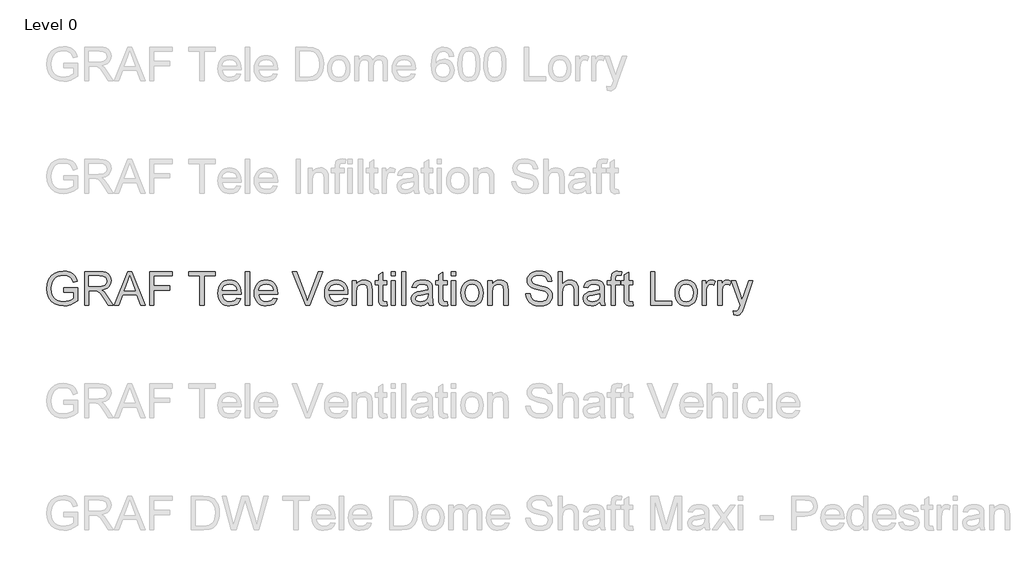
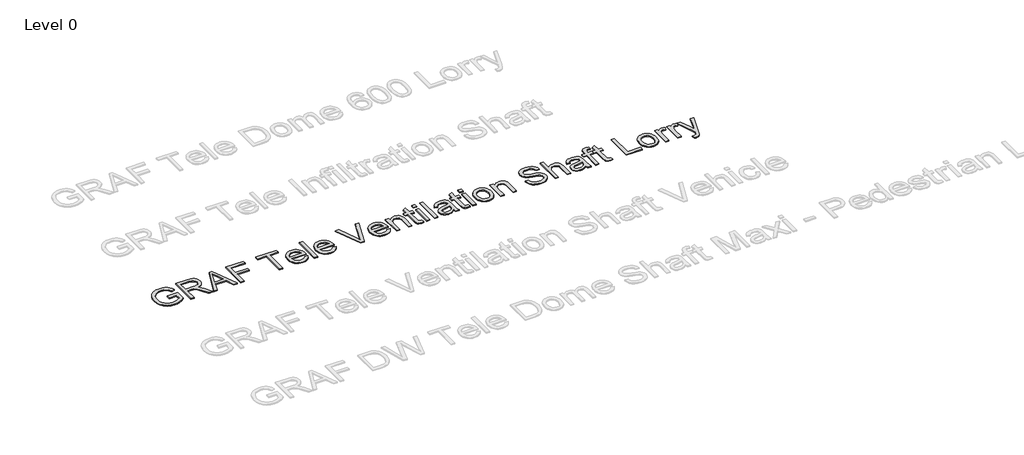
# One storey, part 16 of 25: 1 proxy.
"""IFC4 building model written with IfcOpenShell, lengths in millimetres."""

import ifcopenshell
import ifcopenshell.guid

model = None  # the IFC model being written
_history = None  # IfcOwnerHistory: only IFC2X3 demands one
_inside = {}  # id of a spatial element -> (the spatial element, [elements in it])
_under = {}  # id of a project, library or spatial element -> (it, [spatial elements below it])
_declared = {}  # id of a project -> (the project, [libraries it declares])
_typed = {}  # id of a type object -> (the type object, [elements of that type])
_made_of = {}  # id of a material, layer set ... -> (it, [elements and type objects made of it])


def new_model(schema):
    """Start an empty IFC model of exactly this schema.

    Asked for "IFC4X3", IfcOpenShell would pick the latest addendum, in which some entities
    have other attributes; the version numbers below select the first issue.
    IFC2X3 requires an IfcOwnerHistory on every rooted entity: one is made here for all.
    """
    global model, _history
    if schema == "IFC4X3":
        model = ifcopenshell.file(schema_version=(4, 3, 0, 0))
    else:
        model = ifcopenshell.file(schema=schema)
    _inside.clear()
    _under.clear()
    _declared.clear()
    _typed.clear()
    _made_of.clear()
    _history = None
    if model.schema == "IFC2X3":
        org = make("IfcOrganization", Name="unknown")
        user = make(
            "IfcPersonAndOrganization",
            ThePerson=make("IfcPerson", FamilyName="unknown"),
            TheOrganization=org,
        )
        app = make(
            "IfcApplication",
            ApplicationDeveloper=org,
            Version="unknown",
            ApplicationFullName="unknown",
            ApplicationIdentifier="unknown",
        )
        _history = make(
            "IfcOwnerHistory",
            OwningUser=user,
            OwningApplication=app,
            ChangeAction="ADDED",
            CreationDate=0,
        )
    return model


def make(cls, **values):
    """One entity of the class cls with the attributes given. An attribute that is None is left unset."""
    return model.create_entity(
        cls, **{name: value for name, value in values.items() if value is not None}
    )


def rooted(cls, **values):
    """An entity with a GlobalId (a new one), such as an element, a storey or a relation."""
    return make(cls, GlobalId=ifcopenshell.guid.new(), OwnerHistory=_history, **values)


def si_unit(unit_type, name, prefix=None):
    """IfcSIUnit, for example si_unit("LENGTHUNIT", "METRE", prefix="MILLI")."""
    return make("IfcSIUnit", UnitType=unit_type, Prefix=prefix, Name=name)


def assignment(units):
    """IfcUnitAssignment: the units of a project."""
    return None if units is None else make("IfcUnitAssignment", Units=units)


def point(xyz):
    """IfcCartesianPoint."""
    return None if xyz is None else make("IfcCartesianPoint", Coordinates=xyz)


def direction(xyz):
    """IfcDirection."""
    return None if xyz is None else make("IfcDirection", DirectionRatios=xyz)


def frame(location, z_axis=None, x_axis=None):
    """IfcAxis2Placement3D, a coordinate frame: its origin and axes. An axis left out is left unset."""
    return make(
        "IfcAxis2Placement3D",
        Location=point(location),
        Axis=direction(z_axis),
        RefDirection=direction(x_axis),
    )


def origin():
    """The frame at (0, 0, 0) with its axes left unset."""
    return frame((0.0, 0.0, 0.0))


def origin_with_axes():
    """The frame at (0, 0, 0) with the z axis (0, 0, 1) and the x axis (1, 0, 0) written out."""
    return frame((0.0, 0.0, 0.0), z_axis=(0.0, 0.0, 1.0), x_axis=(1.0, 0.0, 0.0))


def place(relative_to, where):
    """IfcLocalPlacement: puts the frame where relative to a parent placement (None: the world)."""
    return make(
        "IfcLocalPlacement", PlacementRelTo=relative_to, RelativePlacement=where
    )


def context(
    kind, dimensions, precision=None, world=None, true_north=None, identifier=None
):
    """IfcGeometricRepresentationContext, for example the 3D "Model" context."""
    return make(
        "IfcGeometricRepresentationContext",
        ContextIdentifier=identifier,
        ContextType=kind,
        CoordinateSpaceDimension=dimensions,
        Precision=precision,
        WorldCoordinateSystem=world,
        TrueNorth=true_north,
    )


def project(units=None, contexts=None):
    """IfcProject with its units and contexts."""
    return rooted(
        "IfcProject",
        Name="project",
        RepresentationContexts=contexts,
        UnitsInContext=assignment(units),
    )


def spatial(cls, under=None, at=None, **own):
    """A site, building, storey or space (cls), placed at a placement, below another one or the project."""
    s = rooted(cls, ObjectPlacement=at, **own)
    if under is not None:
        _under.setdefault(under.id(), (under, []))[1].append(s)
    return s


def polyline(points):
    """IfcPolyline through the points."""
    return make("IfcPolyline", Points=[point(p) for p in points])


def outline(outer, holes=None, kind="AREA"):
    """IfcArbitraryClosedProfileDef: a profile drawn as a closed curve; with holes, ...WithVoids."""
    if holes is None:
        return make("IfcArbitraryClosedProfileDef", ProfileType=kind, OuterCurve=outer)
    return make(
        "IfcArbitraryProfileDefWithVoids",
        ProfileType=kind,
        OuterCurve=outer,
        InnerCurves=holes,
    )


def extrude(swept, where, along, depth):
    """IfcExtrudedAreaSolid: the profile swept, set in the frame where, extruded along a direction by depth."""
    return make(
        "IfcExtrudedAreaSolid",
        SweptArea=swept,
        Position=where,
        ExtrudedDirection=direction(along),
        Depth=depth,
    )


def shape(context_of_items, identifier, shape_type, items):
    """IfcShapeRepresentation: the items that make up one representation, for example the "Body"."""
    return make(
        "IfcShapeRepresentation",
        ContextOfItems=context_of_items,
        RepresentationIdentifier=identifier,
        RepresentationType=shape_type,
        Items=items,
    )


def made_of(thing, what):
    """Note that an element or type object is made of a material, layer set ...; save() writes the relation."""
    if what is not None:
        _made_of.setdefault(what.id(), (what, []))[1].append(thing)
    return thing


def element(
    cls,
    number,
    at=None,
    inside=None,
    cuts=None,
    type_object=None,
    material=None,
    context=None,
    identifier="Body",
    shape_type=None,
    held_by="IfcProductDefinitionShape",
    body=None,
    shapes=None,
    **own,
):
    """One element of the class cls, such as IfcWall. Its Tag is "e" and its number.

    at: its placement. inside: the storey or other place that contains it. cuts: it is an
    opening in that element (IfcRelVoidsElement). A single representation is given by context,
    identifier, shape_type and body (its items); several are given by shapes. held_by: the class
    of the entity that holds the representations. save() writes the other relations.
    """
    e = rooted(cls, Tag="e%d" % number, ObjectPlacement=at, **own)
    if body is not None:
        shapes = [shape(context, identifier, shape_type, body)]
    if shapes is not None:
        e.Representation = make(held_by, Representations=shapes)
    if inside is not None:
        _inside.setdefault(inside.id(), (inside, []))[1].append(e)
    if cuts is not None:
        rooted(
            "IfcRelVoidsElement", RelatingBuildingElement=cuts, RelatedOpeningElement=e
        )
    if type_object is not None:
        _typed.setdefault(type_object.id(), (type_object, []))[1].append(e)
    return made_of(e, material)


def aggregate(whole, parts):
    """IfcRelAggregates: a whole, such as a stair, and the parts it consists of."""
    return rooted("IfcRelAggregates", RelatingObject=whole, RelatedObjects=parts)


def save(model, path):
    """Write the relations noted so far, then the file.

    IfcRelAggregates (storeys below a building ...), IfcRelContainedInSpatialStructure (elements
    in a storey), IfcRelDefinesByType, IfcRelAssociatesMaterial and IfcRelDeclares: one each for
    every whole, place, type object, material and project.
    """
    for whole, parts in _under.values():
        aggregate(whole, parts)
    for where, things in _inside.values():
        rooted(
            "IfcRelContainedInSpatialStructure",
            RelatedElements=things,
            RelatingStructure=where,
        )
    for kind, things in _typed.values():
        rooted("IfcRelDefinesByType", RelatedObjects=things, RelatingType=kind)
    for what, things in _made_of.values():
        rooted("IfcRelAssociatesMaterial", RelatedObjects=things, RelatingMaterial=what)
    for by, libraries in _declared.values():
        rooted("IfcRelDeclares", RelatingContext=by, RelatedDefinitions=libraries)
    model.write(path)


model = new_model("IFC4")

# Units and contexts
model_context = context("Model", 3, world=origin())
ifc_project = project(units=[si_unit("LENGTHUNIT", "METRE", prefix="MILLI")], contexts=[model_context])

# Site, building, storey
site = spatial("IfcSite", under=ifc_project)
building = spatial("IfcBuilding", under=site)
storey = spatial("IfcBuildingStorey", under=building, Name="Level 0", Elevation=0.0)

# Proxy
placement = place(None, origin())
element("IfcBuildingElementProxy", 1, Name="300mm Arial", ObjectType="300mm Arial", at=placement, inside=storey, context=model_context, shape_type="SweptSolid", body=[
    extrude(outline(polyline([(-15240.9940387, 2916.7454403), (-15240.9940387, 2954.4165566), (-15118.5629107, 2954.4165566), (-15118.5629107, 2841.7710897), (-15148.3153671, 2821.0777274), (-15179.0059225, 2806.2336889), (-15210.5610007, 2797.2941564), (-15242.9070251, 2794.3143123), (-15285.1674693, 2799.050793), (-15323.3628175, 2813.260235), (-15355.0926395, 2836.4459978), (-15377.9565055, 2868.1114405), (-15391.7796715, 2906.0952565), (-15396.3873935, 2948.2361391), (-15391.7980656, 2990.6805243), (-15378.0300819, 3030.1634594), (-15355.6536596, 3063.282036), (-15325.2390156, 3086.6333457), (-15288.1932987, 3100.4841028), (-15245.9236575, 3105.1010218), (-15214.8928112, 3102.4246803), (-15186.9889618, 3094.3956557), (-15163.4904994, 3081.5933623), (-15145.6758138, 3064.5972141), (-15132.4964413, 3042.5886738), (-15122.9039183, 3014.7492038), (-15157.6319786, 3004.9635427), (-15165.3850917, 3024.8199734), (-15174.8120678, 3039.8019677), (-15187.2832674, 3051.0959449), (-15204.169051, 3059.8883246), (-15224.3013932, 3065.5445103), (-15246.5122687, 3067.4299055), (-15272.5123287, 3065.3973575), (-15294.7415982, 3059.2997134), (-15313.1173039, 3049.9003284), (-15327.5566722, 3037.9625577), (-15346.9440533, 3008.9366683), (-15355.7732212, 2980.49939), (-15358.7162772, 2949.7812434), (-15355.175413, 2913.7563991), (-15344.5528204, 2884.1143073), (-15327.1703961, 2861.0665003), (-15303.3500369, 2844.8245102), (-15275.4737787, 2835.195199), (-15245.9236575, 2831.9854286), (-15219.831627, 2834.4042527), (-15194.3833899, 2841.6607251), (-15172.2828791, 2851.6579183), (-15156.234027, 2862.298905), (-15156.234027, 2916.7454403), (-15240.9940387, 2916.7454403)])), origin_with_axes(), (0.0, 0.0, 1.0), 10.0),
    extrude(outline(polyline([(-15057.3473467, 2799.0232018), (-15057.3473467, 3100.3921323), (-14927.4850024, 3100.3921323), (-14892.5821982, 3098.3595842), (-14867.1891434, 3092.2619402), (-14848.6294968, 3081.0047511), (-14834.2269167, 3063.4935682), (-14824.9838815, 3041.7793334), (-14821.9028698, 3017.912989), (-14827.0072325, 2988.2249119), (-14842.3203206, 2963.6136065), (-14853.9200997, 2953.5842236), (-14868.3019865, 2945.5689946), (-14905.4120827, 2935.5809984), (-14884.0013506, 2919.467767), (-14853.467145, 2880.6930048), (-14803.2144645, 2799.0232018), (-14846.9924219, 2799.0232018), (-14886.2086426, 2861.4895646), (-14914.5355562, 2902.8395009), (-14934.4379722, 2922.3740348), (-14952.3538253, 2929.5477337), (-14974.2060158, 2930.8721089), (-15019.6762304, 2930.8721089), (-15019.6762304, 2799.0232018), (-15057.3473467, 2799.0232018)]), holes=[polyline([(-15019.6762304, 2968.5432252), (-14935.3576771, 2968.5432252), (-14911.1418448, 2969.8767974), (-14892.3522719, 2973.8775141), (-14878.2072092, 2980.8120897), (-14867.9249074, 2990.9472387), (-14861.6617165, 3003.2069062), (-14859.5739861, 3016.5150374), (-14863.5563087, 3034.890743), (-14875.5032765, 3049.6979933), (-14896.058683, 3059.4652603), (-14925.8663217, 3062.721016), (-15019.6762304, 3062.721016), (-15019.6762304, 2968.5432252)])]), origin_with_axes(), (0.0, 0.0, 1.0), 10.0),
    extrude(outline(polyline([(-14791.0743586, 2799.0232018), (-14670.7769462, 3100.3921323), (-14638.6976362, 3100.3921323), (-14518.4002238, 2799.0232018), (-14558.2050557, 2799.0232018), (-14592.7123868, 2893.2009926), (-14716.835772, 2893.2009926), (-14751.2695268, 2799.0232018), (-14791.0743586, 2799.0232018)]), holes=[polyline([(-14703.003409, 2930.8721089), (-14606.4711735, 2930.8721089), (-14633.6208647, 3004.9635427), (-14654.7372912, 3062.721016), (-14673.499273, 3011.4382658), (-14703.003409, 2930.8721089)])]), origin_with_axes(), (0.0, 0.0, 1.0), 10.0),
    extrude(outline(polyline([(-14478.1539335, 2799.0232018), (-14478.1539335, 3100.3921323), (-14275.6716834, 3100.3921323), (-14275.6716834, 3062.721016), (-14440.4828172, 3062.721016), (-14440.4828172, 2973.2521147), (-14299.2161311, 2973.2521147), (-14299.2161311, 2935.5809984), (-14440.4828172, 2935.5809984), (-14440.4828172, 2799.0232018), (-14478.1539335, 2799.0232018)])), origin_with_axes(), (0.0, 0.0, 1.0), 10.0),
    extrude(outline(polyline([(-14030.8094274, 2799.0232018), (-14030.8094274, 3062.721016), (-14129.6961077, 3062.721016), (-14129.6961077, 3100.3921323), (-13894.2516308, 3100.3921323), (-13894.2516308, 3062.721016), (-13993.1383111, 3062.721016), (-13993.1383111, 2799.0232018), (-14030.8094274, 2799.0232018)])), origin_with_axes(), (0.0, 0.0, 1.0), 10.0),
    extrude(outline(polyline([(-13701.6286181, 2864.9476554), (-13664.6932658, 2860.2387658), (-13678.001397, 2832.4084929), (-13699.2373851, 2811.6047661), (-13727.9229837, 2798.6369257), (-13763.5799461, 2794.3143123), (-13786.9542484, 2796.1790141), (-13807.7809678, 2801.7731197), (-13826.0601045, 2811.0966291), (-13841.7916583, 2824.1495421), (-13854.4422004, 2840.5685754), (-13863.4783019, 2859.9904455), (-13868.8999628, 2882.4151523), (-13870.7071831, 2907.842696), (-13868.8815687, 2934.1324631), (-13863.4047255, 2957.3044302), (-13854.2766535, 2977.3585975), (-13841.4973527, 2994.2949649), (-13825.8071856, 3007.7502488), (-13807.9465147, 3017.361166), (-13787.9153401, 3023.1277162), (-13765.7136617, 3025.0498997), (-13744.2270539, 3023.1323148), (-13724.7959868, 3017.3795601), (-13707.4204603, 3007.7916356), (-13692.1004744, 2994.3685413), (-13679.5947859, 2977.4689621), (-13670.6621512, 2957.451583), (-13665.3025704, 2934.3164041), (-13663.5160434, 2908.0634252), (-13663.7367726, 2897.9098821), (-13833.0360668, 2897.9098821), (-13826.5153584, 2869.7117272), (-13811.3678173, 2848.9815768), (-13789.5064297, 2836.2344656), (-13762.8441821, 2831.9854286), (-13742.7946134, 2833.9535973), (-13725.9088298, 2839.8581033), (-13712.1868314, 2850.0668287), (-13701.6286181, 2864.9476554)]), holes=[polyline([(-13833.0360668, 2935.5809984), (-13701.1871597, 2935.5809984), (-13706.2823254, 2955.4834144), (-13716.2703215, 2969.7204476), (-13738.2328766, 2982.9641994), (-13765.8608145, 2987.3787834), (-13791.2538692, 2983.8563132), (-13812.2507341, 2973.2889029), (-13826.8464522, 2956.8169866), (-13833.0360668, 2935.5809984)])]), origin_with_axes(), (0.0, 0.0, 1.0), 10.0),
    extrude(outline(polyline([(-13625.8449271, 2799.0232018), (-13625.8449271, 3100.3921323), (-13588.1738108, 3100.3921323), (-13588.1738108, 2799.0232018), (-13625.8449271, 2799.0232018)])), origin_with_axes(), (0.0, 0.0, 1.0), 10.0),
    extrude(outline(polyline([(-13376.71524, 2864.9476554), (-13339.7798877, 2860.2387658), (-13353.0880188, 2832.4084929), (-13374.324007, 2811.6047661), (-13403.0096056, 2798.6369257), (-13438.666568, 2794.3143123), (-13462.0408702, 2796.1790141), (-13482.8675897, 2801.7731197), (-13501.1467263, 2811.0966291), (-13516.8782801, 2824.1495421), (-13529.5288222, 2840.5685754), (-13538.5649238, 2859.9904455), (-13543.9865847, 2882.4151523), (-13545.793805, 2907.842696), (-13543.9681906, 2934.1324631), (-13538.4913474, 2957.3044302), (-13529.3632754, 2977.3585975), (-13516.5839745, 2994.2949649), (-13500.8938074, 3007.7502488), (-13483.0331366, 3017.361166), (-13463.0019619, 3023.1277162), (-13440.8002835, 3025.0498997), (-13419.3136758, 3023.1323148), (-13399.8826086, 3017.3795601), (-13382.5070821, 3007.7916356), (-13367.1870963, 2994.3685413), (-13354.6814077, 2977.4689621), (-13345.748773, 2957.451583), (-13340.3891922, 2934.3164041), (-13338.6026653, 2908.0634252), (-13338.8233945, 2897.9098821), (-13508.1226887, 2897.9098821), (-13501.6019803, 2869.7117272), (-13486.4544391, 2848.9815768), (-13464.5930516, 2836.2344656), (-13437.930804, 2831.9854286), (-13417.8812352, 2833.9535973), (-13400.9954517, 2839.8581033), (-13387.2734532, 2850.0668287), (-13376.71524, 2864.9476554)]), holes=[polyline([(-13508.1226887, 2935.5809984), (-13376.2737816, 2935.5809984), (-13381.3689472, 2955.4834144), (-13391.3569434, 2969.7204476), (-13413.3194985, 2982.9641994), (-13440.9474363, 2987.3787834), (-13466.3404911, 2983.8563132), (-13487.3373559, 2973.2889029), (-13501.9330741, 2956.8169866), (-13508.1226887, 2935.5809984)])]), origin_with_axes(), (0.0, 0.0, 1.0), 10.0),
    extrude(outline(polyline([(-13089.4729781, 2799.0232018), (-13209.4025086, 3100.3921323), (-13169.0826419, 3100.3921323), (-13088.8107906, 2883.2681787), (-13072.5504064, 2834.3398734), (-13056.5107514, 2883.2681787), (-12976.0181708, 3100.3921323), (-12935.6983042, 3100.3921323), (-13050.5510631, 2799.0232018), (-13089.4729781, 2799.0232018)])), origin_with_axes(), (0.0, 0.0, 1.0), 10.0),
    extrude(outline(polyline([(-12750.4329314, 2864.9476554), (-12713.4975791, 2860.2387658), (-12726.8057102, 2832.4084929), (-12748.0416984, 2811.6047661), (-12776.727297, 2798.6369257), (-12812.3842594, 2794.3143123), (-12835.7585616, 2796.1790141), (-12856.5852811, 2801.7731197), (-12874.8644177, 2811.0966291), (-12890.5959716, 2824.1495421), (-12903.2465137, 2840.5685754), (-12912.2826152, 2859.9904455), (-12917.7042761, 2882.4151523), (-12919.5114964, 2907.842696), (-12917.685882, 2934.1324631), (-12912.2090388, 2957.3044302), (-12903.0809668, 2977.3585975), (-12890.301666, 2994.2949649), (-12874.6114989, 3007.7502488), (-12856.750828, 3017.361166), (-12836.7196534, 3023.1277162), (-12814.5179749, 3025.0498997), (-12793.0313672, 3023.1323148), (-12773.6003, 3017.3795601), (-12756.2247736, 3007.7916356), (-12740.9047877, 2994.3685413), (-12728.3990991, 2977.4689621), (-12719.4664644, 2957.451583), (-12714.1068836, 2934.3164041), (-12712.3203567, 2908.0634252), (-12712.5410859, 2897.9098821), (-12881.8403801, 2897.9098821), (-12875.3196717, 2869.7117272), (-12860.1721306, 2848.9815768), (-12838.310743, 2836.2344656), (-12811.6484954, 2831.9854286), (-12791.5989266, 2833.9535973), (-12774.7131431, 2839.8581033), (-12760.9911447, 2850.0668287), (-12750.4329314, 2864.9476554)]), holes=[polyline([(-12881.8403801, 2935.5809984), (-12749.991473, 2935.5809984), (-12755.0866386, 2955.4834144), (-12765.0746348, 2969.7204476), (-12787.0371899, 2982.9641994), (-12814.6651277, 2987.3787834), (-12840.0581825, 2983.8563132), (-12861.0550473, 2973.2889029), (-12875.6507655, 2956.8169866), (-12881.8403801, 2935.5809984)])]), origin_with_axes(), (0.0, 0.0, 1.0), 10.0),
    extrude(outline(polyline([(-12674.6492404, 2799.0232018), (-12674.6492404, 3020.3410101), (-12636.9781241, 3020.3410101), (-12636.9781241, 2989.4389225), (-12623.8907221, 3005.018725), (-12608.1729639, 3016.1471554), (-12589.8248493, 3022.8242136), (-12568.8463786, 3025.0498997), (-12550.2775349, 3023.2564749), (-12533.2721896, 3017.8762008), (-12519.0903387, 3009.5804618), (-12508.991978, 2999.0406426), (-12497.6980007, 2971.3391284), (-12495.7114379, 2934.9188108), (-12495.7114379, 2799.0232018), (-12533.3825542, 2799.0232018), (-12533.3825542, 2929.8420393), (-12537.7235618, 2963.1721481), (-12543.7292353, 2973.0957649), (-12553.064241, 2980.7936956), (-12565.0296029, 2985.7325114), (-12578.9263452, 2987.3787834), (-12600.9900679, 2983.6815693), (-12619.7980349, 2972.5899271), (-12627.3143239, 2963.5354315), (-12632.6831018, 2951.1608009), (-12636.9781241, 2916.4511347), (-12636.9781241, 2799.0232018), (-12674.6492404, 2799.0232018)])), origin_with_axes(), (0.0, 0.0, 1.0), 10.0),
    extrude(outline(polyline([(-12363.8625309, 2830.4403242), (-12359.1536413, 2797.9195558), (-12387.3334021, 2794.3143123), (-12405.4148022, 2795.8778108), (-12418.8976773, 2800.5683062), (-12428.425821, 2807.7971874), (-12434.6430267, 2816.9758432), (-12438.0643293, 2832.7395867), (-12439.2047635, 2859.723731), (-12439.2047635, 2982.6698938), (-12467.4581007, 2982.6698938), (-12467.4581007, 3020.3410101), (-12439.2047635, 3020.3410101), (-12439.2047635, 3074.1253578), (-12401.5336472, 3096.2718539), (-12401.5336472, 3020.3410101), (-12363.8625309, 3020.3410101), (-12363.8625309, 2982.6698938), (-12401.5336472, 2982.6698938), (-12401.5336472, 2860.827377), (-12399.5470844, 2841.4032077), (-12393.1091495, 2834.5238144), (-12380.2700678, 2831.9854286), (-12363.8625309, 2830.4403242)])), origin_with_axes(), (0.0, 0.0, 1.0), 10.0),
    extrude(outline(polyline([(-12326.1914146, 2799.0232018), (-12326.1914146, 3020.3410101), (-12288.5202982, 3020.3410101), (-12288.5202982, 2799.0232018), (-12326.1914146, 2799.0232018)])), origin_with_axes(), (0.0, 0.0, 1.0), 10.0),
    extrude(outline(polyline([(-12326.1914146, 3062.721016), (-12326.1914146, 3100.3921323), (-12288.5202982, 3100.3921323), (-12288.5202982, 3062.721016), (-12326.1914146, 3062.721016)])), origin_with_axes(), (0.0, 0.0, 1.0), 10.0),
    extrude(outline(polyline([(-12232.0136238, 2799.0232018), (-12232.0136238, 3100.3921323), (-12194.3425075, 3100.3921323), (-12194.3425075, 2799.0232018), (-12232.0136238, 2799.0232018)])), origin_with_axes(), (0.0, 0.0, 1.0), 10.0),
    extrude(outline(polyline([(-11996.5691469, 2827.2765391), (-12014.5677735, 2811.8438894), (-12033.099829, 2801.7455286), (-12052.5883777, 2796.1721164), (-12073.4564839, 2794.3143123), (-12104.9379856, 2798.7840785), (-12128.1605365, 2812.1933772), (-12142.4803432, 2832.5556457), (-12147.2536121, 2857.8843211), (-12145.4509903, 2873.5009117), (-12140.043125, 2887.6827627), (-12131.7014008, 2899.8228685), (-12121.0972022, 2909.314224), (-12094.7200632, 2921.675059), (-12062.1257184, 2927.3404417), (-12023.6084735, 2933.3001301), (-11996.7898761, 2940.289888), (-11996.5691469, 2948.6775975), (-11999.1627149, 2965.4898046), (-12006.9434191, 2976.4894763), (-12024.3442375, 2984.6564566), (-12048.587661, 2987.3787834), (-12071.0284627, 2985.5669645), (-12086.7002357, 2980.131508), (-12097.3872077, 2970.0791325), (-12104.8736063, 2954.4165566), (-12142.5447226, 2959.1254461), (-12136.0056201, 2979.7268379), (-12126.2475502, 2995.9136456), (-12112.3600049, 3008.2928748), (-12093.4324762, 3017.4715306), (-12070.2835017, 3023.1553074), (-12043.7316187, 3025.0498997), (-12018.2649875, 3023.3760366), (-11998.0774631, 3018.3544473), (-11982.8563455, 3010.8036694), (-11972.2889352, 3001.5422402), (-11965.2807832, 2990.0919131), (-11960.7374405, 2975.9744415), (-11958.8980306, 2943.0122147), (-11958.8980306, 2896.1440485), (-11956.9850442, 2830.6978416), (-11949.4802515, 2799.0232018), (-11987.1513678, 2799.0232018), (-11996.5691469, 2827.2765391)]), holes=[polyline([(-11996.5691469, 2902.6187717), (-12057.3432525, 2891.067277), (-12089.7536563, 2884.9604359), (-12104.4321479, 2875.027622), (-12109.5824958, 2860.5330714), (-12106.7773956, 2849.3310647), (-12098.3620949, 2840.1524089), (-12084.5205349, 2834.0271737), (-12065.4366564, 2831.9854286), (-12045.2031466, 2834.2387058), (-12027.3240817, 2840.9985375), (-12012.8295311, 2850.9589425), (-12002.7495644, 2862.8139398), (-11998.2797982, 2875.027622), (-11996.7898761, 2891.9501938), (-11996.5691469, 2902.6187717)])]), origin_with_axes(), (0.0, 0.0, 1.0), 10.0),
    extrude(outline(polyline([(-11827.0491235, 2830.4403242), (-11822.340234, 2797.9195558), (-11850.5199948, 2794.3143123), (-11868.6013949, 2795.8778108), (-11882.08427, 2800.5683062), (-11891.6124136, 2807.7971874), (-11897.8296194, 2816.9758432), (-11901.2509219, 2832.7395867), (-11902.3913561, 2859.723731), (-11902.3913561, 2982.6698938), (-11930.6446933, 2982.6698938), (-11930.6446933, 3020.3410101), (-11902.3913561, 3020.3410101), (-11902.3913561, 3074.1253578), (-11864.7202398, 3096.2718539), (-11864.7202398, 3020.3410101), (-11827.0491235, 3020.3410101), (-11827.0491235, 2982.6698938), (-11864.7202398, 2982.6698938), (-11864.7202398, 2860.827377), (-11862.733677, 2841.4032077), (-11856.2957421, 2834.5238144), (-11843.4566605, 2831.9854286), (-11827.0491235, 2830.4403242)])), origin_with_axes(), (0.0, 0.0, 1.0), 10.0),
    extrude(outline(polyline([(-11789.3780072, 2799.0232018), (-11789.3780072, 3020.3410101), (-11751.7068909, 3020.3410101), (-11751.7068909, 2799.0232018), (-11789.3780072, 2799.0232018)])), origin_with_axes(), (0.0, 0.0, 1.0), 10.0),
    extrude(outline(polyline([(-11789.3780072, 3062.721016), (-11789.3780072, 3100.3921323), (-11751.7068909, 3100.3921323), (-11751.7068909, 3062.721016), (-11789.3780072, 3062.721016)])), origin_with_axes(), (0.0, 0.0, 1.0), 10.0),
    extrude(outline(polyline([(-11704.6179955, 2909.682106), (-11702.580849, 2938.3447119), (-11696.4694093, 2963.0433894), (-11686.2836766, 2983.7781383), (-11672.0236507, 3000.5489588), (-11657.6670559, 3011.2681204), (-11641.8205389, 3018.9246644), (-11624.4840999, 3023.5185909), (-11605.6577388, 3025.0498997), (-11584.8747053, 3023.1851978), (-11566.0828332, 3017.5910922), (-11549.2821223, 3008.2675829), (-11534.4725727, 2995.2146698), (-11522.3853499, 2978.8738115), (-11513.7516194, 2959.6864662), (-11508.571381, 2937.6526339), (-11506.8446349, 2912.7723147), (-11509.8980555, 2874.7149223), (-11519.0583171, 2845.7442152), (-11534.0587055, 2824.0483745), (-11554.6325061, 2807.8155815), (-11579.0690676, 2797.6896296), (-11605.6577388, 2794.3143123), (-11626.7442749, 2796.1721164), (-11645.710891, 2801.7455286), (-11662.5575871, 2811.034549), (-11677.2843633, 2824.0391775), (-11689.2428274, 2840.538685), (-11697.7845874, 2860.3123422), (-11702.9096435, 2883.3601492), (-11704.6179955, 2909.682106)]), holes=[polyline([(-11666.9468792, 2909.7556824), (-11662.5874776, 2875.6622185), (-11649.5092726, 2851.3728097), (-11629.8275859, 2836.8322739), (-11605.6577388, 2831.9854286), (-11581.5982563, 2836.859865), (-11561.9533578, 2851.4831743), (-11548.8751528, 2876.0944798), (-11544.5157512, 2910.9329048), (-11548.902744, 2944.0330873), (-11562.0637224, 2967.9914022), (-11581.7362121, 2982.5319381), (-11605.6577388, 2987.3787834), (-11629.8275859, 2982.5503322), (-11649.5092726, 2968.0649786), (-11662.5874776, 2943.8307522), (-11666.9468792, 2909.7556824)])]), origin_with_axes(), (0.0, 0.0, 1.0), 10.0),
    extrude(outline(polyline([(-11464.464629, 2799.0232018), (-11464.464629, 3020.3410101), (-11426.7935127, 3020.3410101), (-11426.7935127, 2989.4389225), (-11413.7061108, 3005.018725), (-11397.9883525, 3016.1471554), (-11379.640238, 3022.8242136), (-11358.6617672, 3025.0498997), (-11340.0929235, 3023.2564749), (-11323.0875783, 3017.8762008), (-11308.9057274, 3009.5804618), (-11298.8073666, 2999.0406426), (-11287.5133894, 2971.3391284), (-11285.5268266, 2934.9188108), (-11285.5268266, 2799.0232018), (-11323.1979429, 2799.0232018), (-11323.1979429, 2929.8420393), (-11327.5389504, 2963.1721481), (-11333.544624, 2973.0957649), (-11342.8796296, 2980.7936956), (-11354.8449915, 2985.7325114), (-11368.7417339, 2987.3787834), (-11390.8054566, 2983.6815693), (-11409.6134236, 2972.5899271), (-11417.1297126, 2963.5354315), (-11422.4984904, 2951.1608009), (-11426.7935127, 2916.4511347), (-11426.7935127, 2799.0232018), (-11464.464629, 2799.0232018)])), origin_with_axes(), (0.0, 0.0, 1.0), 10.0),
    extrude(outline(polyline([(-11125.4245823, 2902.6187717), (-11087.753466, 2902.6187717), (-11083.4308525, 2881.7138773), (-11075.6133601, 2864.9108672), (-11063.418072, 2851.5751448), (-11045.9620713, 2841.0721139), (-11024.6249156, 2834.2570999), (-11000.7861623, 2831.9854286), (-10979.7984945, 2833.7052769), (-10961.4227888, 2838.8648219), (-10946.5327651, 2847.0318022), (-10936.002143, 2857.7739565), (-10929.738952, 2870.1072003), (-10927.6512217, 2883.0474495), (-10929.2147202, 2895.6566049), (-10933.9052156, 2906.555109), (-10943.4333593, 2915.8533264), (-10959.5098025, 2923.6616218), (-11014.361008, 2938.0458078), (-11050.3674582, 2947.5647544), (-11073.4060682, 2956.6238486), (-11092.1588529, 2969.2973833), (-11105.44859, 2984.6564566), (-11113.3672499, 3002.3699747), (-11116.0068032, 3022.1068437), (-11112.7418505, 3044.1705664), (-11102.9469924, 3064.7443669), (-11086.8797462, 3082.1819735), (-11064.7976295, 3094.8371141), (-11038.2917317, 3102.5350449), (-11008.9531426, 3105.1010218), (-10977.1681382, 3102.4154832), (-10949.3562594, 3094.3588675), (-10926.5107875, 3081.0967216), (-10909.6250039, 3062.7945924), (-10898.938032, 3040.592914), (-10894.6889949, 3015.6321206), (-10932.3601112, 3015.6321206), (-10939.2762927, 3038.1097105), (-10953.6972669, 3054.3333065), (-10976.2300392, 3064.1557557), (-11007.4816146, 3067.4299055), (-11039.4689541, 3064.1925439), (-11061.4131151, 3054.4804593), (-11074.105044, 3040.1882438), (-11078.3356869, 3023.2104897), (-11075.3374487, 3008.7343332), (-11066.3427339, 2997.090868), (-11045.0791545, 2986.6798076), (-11004.8328643, 2976.0480179), (-10963.298987, 2965.9496571), (-10938.1726467, 2957.1388833), (-10916.6975353, 2943.4720672), (-10901.715541, 2926.6046777), (-10892.9139643, 2906.7206559), (-10889.9801054, 2884.0039427), (-10893.3554227, 2860.7813918), (-10903.4813746, 2838.9383983), (-10919.9440939, 2820.1396283), (-10942.3297133, 2806.0497479), (-10969.2494783, 2797.2481712), (-10999.3146343, 2794.3143123), (-11036.2223955, 2797.4780974), (-11066.6002513, 2806.9694529), (-11090.7976895, 2822.8251669), (-11109.1641981, 2845.0820276), (-11120.9548161, 2872.1949307), (-11125.4245823, 2902.6187717)])), origin_with_axes(), (0.0, 0.0, 1.0), 10.0),
    extrude(outline(polyline([(-10838.1823205, 2799.0232018), (-10838.1823205, 3100.3921323), (-10800.5112042, 3100.3921323), (-10800.5112042, 2989.5860753), (-10786.6742426, 3005.1014985), (-10771.1358268, 3016.1839436), (-10753.8959568, 3022.8334106), (-10734.9546326, 3025.0498997), (-10712.2011312, 3022.6310755), (-10692.6482032, 3015.3746032), (-10677.2523417, 3003.8506997), (-10666.9700399, 2988.6295821), (-10661.1758985, 2967.7154907), (-10659.244518, 2939.1126656), (-10659.244518, 2799.0232018), (-10696.9156343, 2799.0232018), (-10696.9156343, 2935.2131164), (-10699.9138726, 2958.7943523), (-10708.9085874, 2974.9443719), (-10723.403138, 2984.2701805), (-10742.9008837, 2987.3787834), (-10758.8209771, 2985.281856), (-10773.7661831, 2978.9910739), (-10786.1454122, 2969.1134423), (-10794.3675748, 2956.2559666), (-10798.9752968, 2939.1678479), (-10800.5112042, 2916.5982875), (-10800.5112042, 2799.0232018), (-10838.1823205, 2799.0232018)])), origin_with_axes(), (0.0, 0.0, 1.0), 10.0),
    extrude(outline(polyline([(-10466.1800469, 2827.2765391), (-10484.1786736, 2811.8438894), (-10502.7107291, 2801.7455286), (-10522.1992778, 2796.1721164), (-10543.0673839, 2794.3143123), (-10574.5488857, 2798.7840785), (-10597.7714366, 2812.1933772), (-10612.0912433, 2832.5556457), (-10616.8645122, 2857.8843211), (-10615.0618904, 2873.5009117), (-10609.6540251, 2887.6827627), (-10601.3123008, 2899.8228685), (-10590.7081023, 2909.314224), (-10564.3309633, 2921.675059), (-10531.7366185, 2927.3404417), (-10493.2193736, 2933.3001301), (-10466.4007761, 2940.289888), (-10466.1800469, 2948.6775975), (-10468.773615, 2965.4898046), (-10476.5543192, 2976.4894763), (-10493.9551376, 2984.6564566), (-10518.1985611, 2987.3787834), (-10540.6393628, 2985.5669645), (-10556.3111358, 2980.131508), (-10566.9981077, 2970.0791325), (-10574.4845063, 2954.4165566), (-10612.1556226, 2959.1254461), (-10605.6165202, 2979.7268379), (-10595.8584502, 2995.9136456), (-10581.9709049, 3008.2928748), (-10563.0433763, 3017.4715306), (-10539.8944017, 3023.1553074), (-10513.3425187, 3025.0498997), (-10487.8758876, 3023.3760366), (-10467.6883631, 3018.3544473), (-10452.4672456, 3010.8036694), (-10441.8998353, 3001.5422402), (-10434.8916832, 2990.0919131), (-10430.3483406, 2975.9744415), (-10428.5089306, 2943.0122147), (-10428.5089306, 2896.1440485), (-10426.5959443, 2830.6978416), (-10419.0911516, 2799.0232018), (-10456.7622679, 2799.0232018), (-10466.1800469, 2827.2765391)]), holes=[polyline([(-10466.1800469, 2902.6187717), (-10526.9541525, 2891.067277), (-10559.3645563, 2884.9604359), (-10574.0430479, 2875.027622), (-10579.1933959, 2860.5330714), (-10576.3882956, 2849.3310647), (-10567.972995, 2840.1524089), (-10554.1314349, 2834.0271737), (-10535.0475564, 2831.9854286), (-10514.8140467, 2834.2387058), (-10496.9349817, 2840.9985375), (-10482.4404311, 2850.9589425), (-10472.3604645, 2862.8139398), (-10467.8906982, 2875.027622), (-10466.4007761, 2891.9501938), (-10466.1800469, 2902.6187717)])]), origin_with_axes(), (0.0, 0.0, 1.0), 10.0),
    extrude(outline(polyline([(-10367.2933666, 2799.0232018), (-10367.2933666, 2982.6698938), (-10400.2555934, 2982.6698938), (-10400.2555934, 3020.3410101), (-10367.2933666, 3020.3410101), (-10367.2933666, 3042.634659), (-10363.3202411, 3074.0517814), (-10355.741872, 3086.5781634), (-10344.0432245, 3096.4925831), (-10327.6724758, 3102.9489121), (-10306.0778026, 3105.1010218), (-10271.7176243, 3100.9807435), (-10277.2358542, 3065.6640719), (-10298.9408919, 3067.4299055), (-10313.2606986, 3065.866407), (-10322.6692806, 3061.1759116), (-10327.8840079, 3052.217985), (-10329.6222503, 3037.8521931), (-10329.6222503, 3020.3410101), (-10287.2422445, 3020.3410101), (-10287.2422445, 2982.6698938), (-10329.6222503, 2982.6698938), (-10329.6222503, 2799.0232018), (-10367.2933666, 2799.0232018)])), origin_with_axes(), (0.0, 0.0, 1.0), 10.0),
    extrude(outline(polyline([(-10174.2288956, 2830.4403242), (-10169.520006, 2797.9195558), (-10197.6997669, 2794.3143123), (-10215.7811669, 2795.8778108), (-10229.264042, 2800.5683062), (-10238.7921857, 2807.7971874), (-10245.0093914, 2816.9758432), (-10248.430694, 2832.7395867), (-10249.5711282, 2859.723731), (-10249.5711282, 2982.6698938), (-10277.8244654, 2982.6698938), (-10277.8244654, 3020.3410101), (-10249.5711282, 3020.3410101), (-10249.5711282, 3074.1253578), (-10211.9000119, 3096.2718539), (-10211.9000119, 3020.3410101), (-10174.2288956, 3020.3410101), (-10174.2288956, 2982.6698938), (-10211.9000119, 2982.6698938), (-10211.9000119, 2860.827377), (-10209.9134491, 2841.4032077), (-10203.4755142, 2834.5238144), (-10190.6364325, 2831.9854286), (-10174.2288956, 2830.4403242)])), origin_with_axes(), (0.0, 0.0, 1.0), 10.0),
    extrude(outline(polyline([(-10014.1266513, 2799.0232018), (-10014.1266513, 3100.3921323), (-9976.455535, 3100.3921323), (-9976.455535, 2836.6943181), (-9825.7710697, 2836.6943181), (-9825.7710697, 2799.0232018), (-10014.1266513, 2799.0232018)])), origin_with_axes(), (0.0, 0.0, 1.0), 10.0),
    extrude(outline(polyline([(-9797.5177325, 2909.682106), (-9795.480586, 2938.3447119), (-9789.3691463, 2963.0433894), (-9779.1834136, 2983.7781383), (-9764.9233877, 3000.5489588), (-9750.5667929, 3011.2681204), (-9734.7202759, 3018.9246644), (-9717.3838369, 3023.5185909), (-9698.5574758, 3025.0498997), (-9677.7744423, 3023.1851978), (-9658.9825702, 3017.5910922), (-9642.1818593, 3008.2675829), (-9627.3723097, 2995.2146698), (-9615.2850869, 2978.8738115), (-9606.6513564, 2959.6864662), (-9601.471118, 2937.6526339), (-9599.7443719, 2912.7723147), (-9602.7977925, 2874.7149223), (-9611.9580541, 2845.7442152), (-9626.9584425, 2824.0483745), (-9647.5322431, 2807.8155815), (-9671.9688046, 2797.6896296), (-9698.5574758, 2794.3143123), (-9719.6440119, 2796.1721164), (-9738.610628, 2801.7455286), (-9755.4573241, 2811.034549), (-9770.1841003, 2824.0391775), (-9782.1425644, 2840.538685), (-9790.6843244, 2860.3123422), (-9795.8093805, 2883.3601492), (-9797.5177325, 2909.682106)]), holes=[polyline([(-9759.8466162, 2909.7556824), (-9755.4872146, 2875.6622185), (-9742.4090096, 2851.3728097), (-9722.7273229, 2836.8322739), (-9698.5574758, 2831.9854286), (-9674.4979933, 2836.859865), (-9654.8530948, 2851.4831743), (-9641.7748898, 2876.0944798), (-9637.4154882, 2910.9329048), (-9641.802481, 2944.0330873), (-9654.9634594, 2967.9914022), (-9674.6359491, 2982.5319381), (-9698.5574758, 2987.3787834), (-9722.7273229, 2982.5503322), (-9742.4090096, 2968.0649786), (-9755.4872146, 2943.8307522), (-9759.8466162, 2909.7556824)])]), origin_with_axes(), (0.0, 0.0, 1.0), 10.0),
    extrude(outline(polyline([(-9557.3643661, 2799.0232018), (-9557.3643661, 3020.3410101), (-9524.4021393, 3020.3410101), (-9524.4021393, 2987.5995125), (-9512.2252452, 3006.5822235), (-9501.0048444, 3017.7658362), (-9489.7476553, 3023.2288838), (-9477.4603967, 3025.0498997), (-9458.6984149, 3022.1436319), (-9439.6421276, 3013.4248286), (-9452.2236918, 2979.6532615), (-9465.4674437, 2985.4474029), (-9478.7111955, 2987.3787834), (-9489.9591875, 2985.5209793), (-9500.011563, 2979.947567), (-9508.132558, 2971.081611), (-9513.5864086, 2959.3461753), (-9518.1665395, 2938.3033252), (-9519.6932497, 2915.3474887), (-9519.6932497, 2799.0232018), (-9557.3643661, 2799.0232018)])), origin_with_axes(), (0.0, 0.0, 1.0), 10.0),
    extrude(outline(polyline([(-9416.0976799, 2799.0232018), (-9416.0976799, 3020.3410101), (-9383.1354531, 3020.3410101), (-9383.1354531, 2987.5995125), (-9370.9585591, 3006.5822235), (-9359.7381582, 3017.7658362), (-9348.4809692, 3023.2288838), (-9336.1937106, 3025.0498997), (-9317.4317288, 3022.1436319), (-9298.3754414, 3013.4248286), (-9310.9570057, 2979.6532615), (-9324.2007575, 2985.4474029), (-9337.4445093, 2987.3787834), (-9348.6925013, 2985.5209793), (-9358.7448769, 2979.947567), (-9366.8658719, 2971.081611), (-9372.3197225, 2959.3461753), (-9376.8998533, 2938.3033252), (-9378.4265636, 2915.3474887), (-9378.4265636, 2799.0232018), (-9416.0976799, 2799.0232018)])), origin_with_axes(), (0.0, 0.0, 1.0), 10.0),
    extrude(outline(polyline([(-9274.8309938, 2714.2631901), (-9279.5398833, 2750.5363549), (-9260.4100195, 2747.2254169), (-9242.5309546, 2751.3824834), (-9231.5680711, 2762.9707663), (-9221.2673753, 2790.7090687), (-9218.3243193, 2799.8325422), (-9298.3754414, 3020.3410101), (-9258.644186, 3020.3410101), (-9216.1906037, 2897.4684237), (-9201.4017475, 2848.3193892), (-9186.6128913, 2891.7294646), (-9142.9820867, 3020.3410101), (-9103.5451368, 3020.3410101), (-9180.5796266, 2793.7257011), (-9200.5924071, 2744.5766665), (-9210.8379207, 2728.8864994), (-9222.4445976, 2718.0155865), (-9235.9274728, 2711.6696221), (-9251.8015809, 2709.5543006), (-9274.8309938, 2714.2631901)])), origin_with_axes(), (0.0, 0.0, 1.0), 10.0),
])

save(model, "model.ifc")
